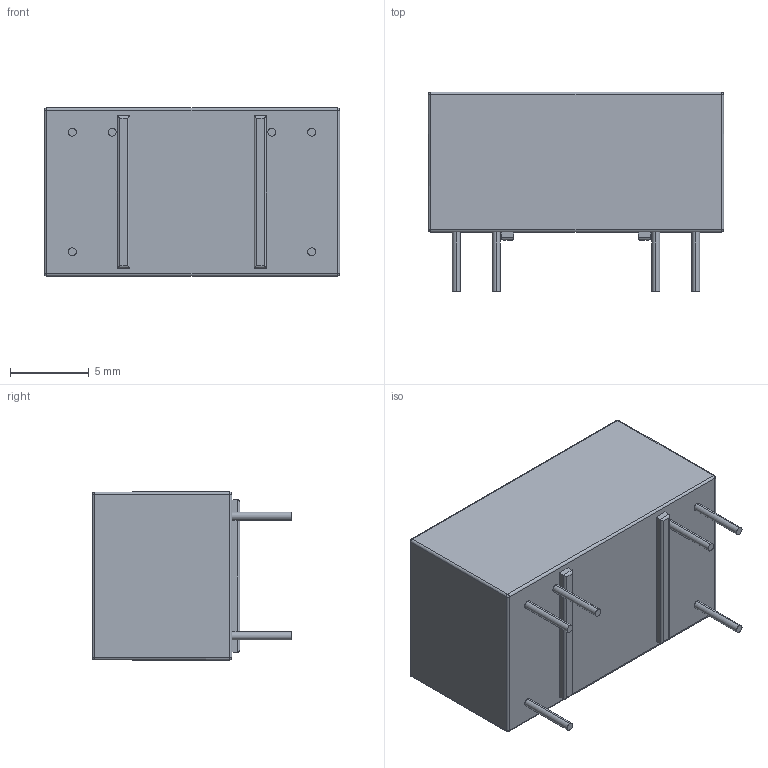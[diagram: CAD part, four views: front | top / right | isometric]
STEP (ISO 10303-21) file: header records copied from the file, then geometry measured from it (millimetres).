
FILE_DESCRIPTION (( 'STEP AP214' ), '1' );
FILE_NAME ('97-1-A-X-XX.STEP', '2010-11-26T15:20:47', ( ' ' ), ( '' ), 'SwSTEP 2.0', 'SolidWorks 2009', '' );
FILE_SCHEMA (( 'AUTOMOTIVE_DESIGN' ));
Length unit declared in the file: millimetre
Products named in the file (1): 97-1-A-X-XX
Bounding box: 18.8 x 12.7 x 10.7 mm (x, y, z)
Volume: 1798.7 mm3; surface area: 971.5 mm2
Topology: 1 solids, 1 shells, 664 faces, 1739 edges, 1142 vertices
Faces by surface type: plane 402, bspline 216, cylinder 36, sphere 10
Entity records: 45731 total; most frequent: CARTESIAN_POINT 23542, ORIENTED_EDGE 3462, DIRECTION 2247, EDGE_CURVE 1731, VECTOR 1233, LINE 1233, VERTEX_POINT 1142, EDGE_LOOP 737
